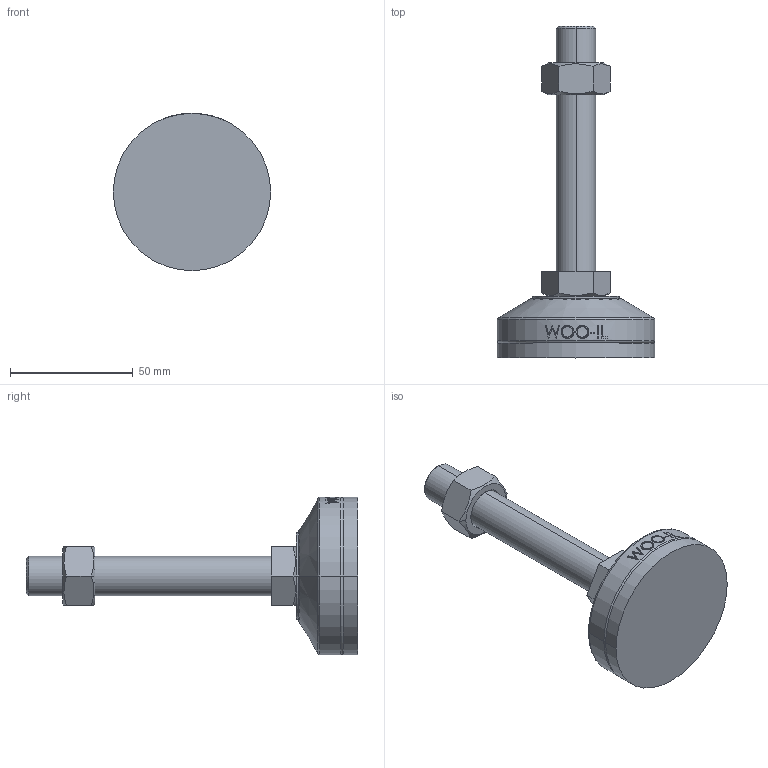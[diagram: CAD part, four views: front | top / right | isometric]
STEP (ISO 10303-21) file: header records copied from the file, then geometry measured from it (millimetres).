
FILE_DESCRIPTION (( 'STEP AP214' ), '1' );
FILE_NAME ('MFR64-M16-100.step', '2021-01-13T05:36:30', ( '' ), ( '' ), 'SwSTEP 2.0', 'SolidWorks 2019', '' );
FILE_SCHEMA (( 'AUTOMOTIVE_DESIGN' ));
Length unit declared in the file: millimetre
Products named in the file (2): MFR64-M16-100
Bounding box: 64 x 135 x 64 mm (x, y, z)
Volume: 97584.8 mm3; surface area: 25443.5 mm2
Topology: 4 solids, 4 shells, 103 faces, 235 edges, 150 vertices
Faces by surface type: plane 49, cylinder 18, bspline 16, cone 14, torus 6
Entity records: 4393 total; most frequent: CARTESIAN_POINT 2120, ORIENTED_EDGE 470, DIRECTION 417, EDGE_CURVE 235, AXIS2_PLACEMENT_3D 159, VERTEX_POINT 150, EDGE_LOOP 115, FACE_OUTER_BOUND 103
